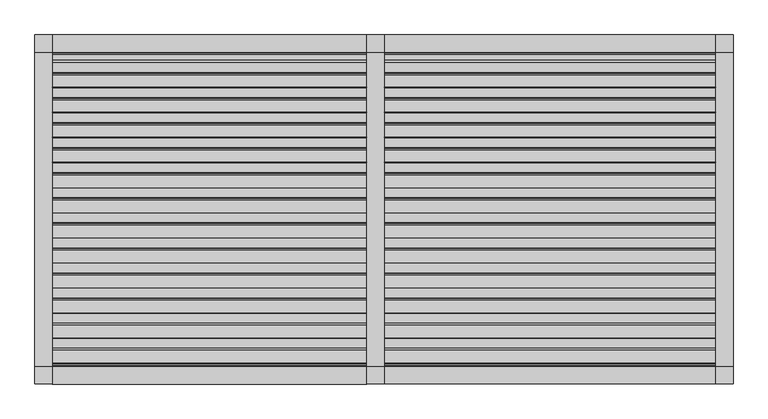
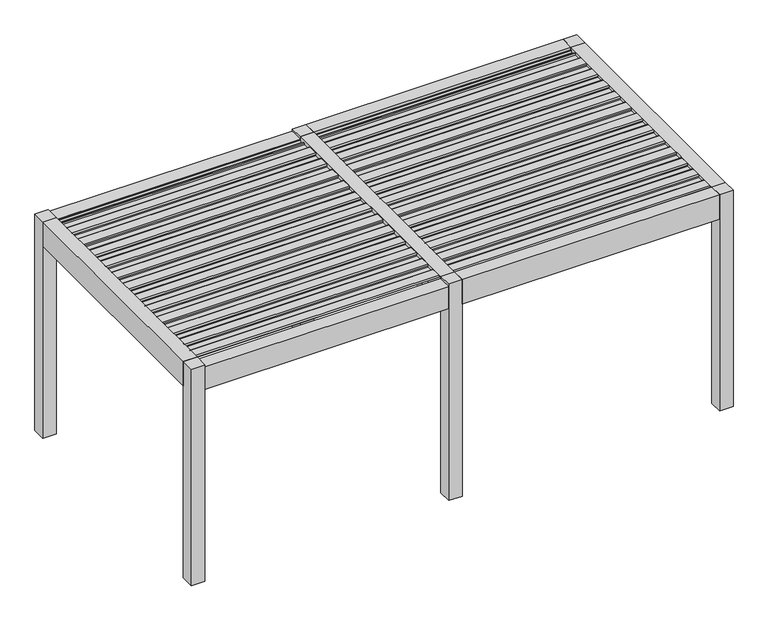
"""IFC4 building model written with IfcOpenShell, lengths in millimetres: proxy geometry, Renson_Amani_Patio_Cover : Renson_Amani_Patio_Cover."""

import ifcopenshell
import ifcopenshell.guid

model = None  # the IFC model being written
_history = None  # IfcOwnerHistory: only IFC2X3 demands one
_inside = {}  # id of a spatial element -> (the spatial element, [elements in it])
_under = {}  # id of a project, library or spatial element -> (it, [spatial elements below it])
_declared = {}  # id of a project -> (the project, [libraries it declares])
_typed = {}  # id of a type object -> (the type object, [elements of that type])
_made_of = {}  # id of a material, layer set ... -> (it, [elements and type objects made of it])


def new_model(schema):
    """Start an empty IFC model of exactly this schema.

    Asked for "IFC4X3", IfcOpenShell would pick the latest addendum, in which some entities
    have other attributes; the version numbers below select the first issue.
    IFC2X3 requires an IfcOwnerHistory on every rooted entity: one is made here for all.
    """
    global model, _history
    if schema == "IFC4X3":
        model = ifcopenshell.file(schema_version=(4, 3, 0, 0))
    else:
        model = ifcopenshell.file(schema=schema)
    _inside.clear()
    _under.clear()
    _declared.clear()
    _typed.clear()
    _made_of.clear()
    _history = None
    if model.schema == "IFC2X3":
        org = make("IfcOrganization", Name="unknown")
        user = make(
            "IfcPersonAndOrganization",
            ThePerson=make("IfcPerson", FamilyName="unknown"),
            TheOrganization=org,
        )
        app = make(
            "IfcApplication",
            ApplicationDeveloper=org,
            Version="unknown",
            ApplicationFullName="unknown",
            ApplicationIdentifier="unknown",
        )
        _history = make(
            "IfcOwnerHistory",
            OwningUser=user,
            OwningApplication=app,
            ChangeAction="ADDED",
            CreationDate=0,
        )
    return model


def make(cls, **values):
    """One entity of the class cls with the attributes given. An attribute that is None is left unset."""
    return model.create_entity(
        cls, **{name: value for name, value in values.items() if value is not None}
    )


def rooted(cls, **values):
    """An entity with a GlobalId (a new one), such as an element, a storey or a relation."""
    return make(cls, GlobalId=ifcopenshell.guid.new(), OwnerHistory=_history, **values)


def si_unit(unit_type, name, prefix=None):
    """IfcSIUnit, for example si_unit("LENGTHUNIT", "METRE", prefix="MILLI")."""
    return make("IfcSIUnit", UnitType=unit_type, Prefix=prefix, Name=name)


def assignment(units):
    """IfcUnitAssignment: the units of a project."""
    return None if units is None else make("IfcUnitAssignment", Units=units)


def point(xyz):
    """IfcCartesianPoint."""
    return None if xyz is None else make("IfcCartesianPoint", Coordinates=xyz)


def direction(xyz):
    """IfcDirection."""
    return None if xyz is None else make("IfcDirection", DirectionRatios=xyz)


def frame(location, z_axis=None, x_axis=None):
    """IfcAxis2Placement3D, a coordinate frame: its origin and axes. An axis left out is left unset."""
    return make(
        "IfcAxis2Placement3D",
        Location=point(location),
        Axis=direction(z_axis),
        RefDirection=direction(x_axis),
    )


def frame_2d(location, x_axis=None):
    """IfcAxis2Placement2D, a coordinate frame in the plane: its origin and x axis."""
    return make(
        "IfcAxis2Placement2D", Location=point(location), RefDirection=direction(x_axis)
    )


def origin():
    """The frame at (0, 0, 0) with its axes left unset."""
    return frame((0.0, 0.0, 0.0))


def origin_with_axes():
    """The frame at (0, 0, 0) with the z axis (0, 0, 1) and the x axis (1, 0, 0) written out."""
    return frame((0.0, 0.0, 0.0), z_axis=(0.0, 0.0, 1.0), x_axis=(1.0, 0.0, 0.0))


def place(relative_to, where):
    """IfcLocalPlacement: puts the frame where relative to a parent placement (None: the world)."""
    return make(
        "IfcLocalPlacement", PlacementRelTo=relative_to, RelativePlacement=where
    )


def context(
    kind, dimensions, precision=None, world=None, true_north=None, identifier=None
):
    """IfcGeometricRepresentationContext, for example the 3D "Model" context."""
    return make(
        "IfcGeometricRepresentationContext",
        ContextIdentifier=identifier,
        ContextType=kind,
        CoordinateSpaceDimension=dimensions,
        Precision=precision,
        WorldCoordinateSystem=world,
        TrueNorth=true_north,
    )


def project(units=None, contexts=None):
    """IfcProject with its units and contexts."""
    return rooted(
        "IfcProject",
        Name="project",
        RepresentationContexts=contexts,
        UnitsInContext=assignment(units),
    )


def spatial(cls, under=None, at=None, **own):
    """A site, building, storey or space (cls), placed at a placement, below another one or the project."""
    s = rooted(cls, ObjectPlacement=at, **own)
    if under is not None:
        _under.setdefault(under.id(), (under, []))[1].append(s)
    return s


def polyline(points):
    """IfcPolyline through the points."""
    return make("IfcPolyline", Points=[point(p) for p in points])


def circle_curve(where, radius):
    """IfcCircle in the frame where."""
    return make("IfcCircle", Position=where, Radius=radius)


def trimmed(basis, trim1, trim2, sense, master):
    """IfcTrimmedCurve: the piece of a basis curve between two trims."""
    return make(
        "IfcTrimmedCurve",
        BasisCurve=basis,
        Trim1=trim1,
        Trim2=trim2,
        SenseAgreement=sense,
        MasterRepresentation=master,
    )


def segment(curve, same_sense, transition):
    """IfcCompositeCurveSegment."""
    return make(
        "IfcCompositeCurveSegment",
        Transition=transition,
        SameSense=same_sense,
        ParentCurve=curve,
    )


def composite_curve(segments, self_intersect=None):
    """IfcCompositeCurve: segments joined end to end."""
    return make("IfcCompositeCurve", Segments=segments, SelfIntersect=self_intersect)


def outline(outer, holes=None, kind="AREA"):
    """IfcArbitraryClosedProfileDef: a profile drawn as a closed curve; with holes, ...WithVoids."""
    if holes is None:
        return make("IfcArbitraryClosedProfileDef", ProfileType=kind, OuterCurve=outer)
    return make(
        "IfcArbitraryProfileDefWithVoids",
        ProfileType=kind,
        OuterCurve=outer,
        InnerCurves=holes,
    )


def extrude(swept, where, along, depth):
    """IfcExtrudedAreaSolid: the profile swept, set in the frame where, extruded along a direction by depth."""
    return make(
        "IfcExtrudedAreaSolid",
        SweptArea=swept,
        Position=where,
        ExtrudedDirection=direction(along),
        Depth=depth,
    )


def shape(context_of_items, identifier, shape_type, items):
    """IfcShapeRepresentation: the items that make up one representation, for example the "Body"."""
    return make(
        "IfcShapeRepresentation",
        ContextOfItems=context_of_items,
        RepresentationIdentifier=identifier,
        RepresentationType=shape_type,
        Items=items,
    )


def source(mapping_origin, context_of_items, identifier, shape_type, items):
    """IfcRepresentationMap: a shape defined once, which mapped items show again and again."""
    return make(
        "IfcRepresentationMap",
        MappingOrigin=mapping_origin,
        MappedRepresentation=shape(context_of_items, identifier, shape_type, items),
    )


def transform(
    local_origin,
    x_axis=None,
    y_axis=None,
    z_axis=None,
    scale=None,
    scale2=None,
    scale3=None,
    uniform=True,
):
    """IfcCartesianTransformationOperator3D, or its non-uniform kind. x_axis, y_axis, z_axis: its Axis1, 2, 3."""
    if uniform:
        return make(
            "IfcCartesianTransformationOperator3D",
            Axis1=direction(x_axis),
            Axis2=direction(y_axis),
            LocalOrigin=point(local_origin),
            Scale=scale,
            Axis3=direction(z_axis),
        )
    return make(
        "IfcCartesianTransformationOperator3DnonUniform",
        Axis1=direction(x_axis),
        Axis2=direction(y_axis),
        LocalOrigin=point(local_origin),
        Scale=scale,
        Axis3=direction(z_axis),
        Scale2=scale2,
        Scale3=scale3,
    )


def mapped(mapping_source, mapping_target):
    """IfcMappedItem: shows the shape of a source again, moved by a transform."""
    return make(
        "IfcMappedItem", MappingSource=mapping_source, MappingTarget=mapping_target
    )


def made_of(thing, what):
    """Note that an element or type object is made of a material, layer set ...; save() writes the relation."""
    if what is not None:
        _made_of.setdefault(what.id(), (what, []))[1].append(thing)
    return thing


def element(
    cls,
    number,
    at=None,
    inside=None,
    cuts=None,
    type_object=None,
    material=None,
    context=None,
    identifier="Body",
    shape_type=None,
    held_by="IfcProductDefinitionShape",
    body=None,
    shapes=None,
    **own,
):
    """One element of the class cls, such as IfcWall. Its Tag is "e" and its number.

    at: its placement. inside: the storey or other place that contains it. cuts: it is an
    opening in that element (IfcRelVoidsElement). A single representation is given by context,
    identifier, shape_type and body (its items); several are given by shapes. held_by: the class
    of the entity that holds the representations. save() writes the other relations.
    """
    e = rooted(cls, Tag="e%d" % number, ObjectPlacement=at, **own)
    if body is not None:
        shapes = [shape(context, identifier, shape_type, body)]
    if shapes is not None:
        e.Representation = make(held_by, Representations=shapes)
    if inside is not None:
        _inside.setdefault(inside.id(), (inside, []))[1].append(e)
    if cuts is not None:
        rooted(
            "IfcRelVoidsElement", RelatingBuildingElement=cuts, RelatedOpeningElement=e
        )
    if type_object is not None:
        _typed.setdefault(type_object.id(), (type_object, []))[1].append(e)
    return made_of(e, material)


def aggregate(whole, parts):
    """IfcRelAggregates: a whole, such as a stair, and the parts it consists of."""
    return rooted("IfcRelAggregates", RelatingObject=whole, RelatedObjects=parts)


def save(model, path):
    """Write the relations noted so far, then the file.

    IfcRelAggregates (storeys below a building ...), IfcRelContainedInSpatialStructure (elements
    in a storey), IfcRelDefinesByType, IfcRelAssociatesMaterial and IfcRelDeclares: one each for
    every whole, place, type object, material and project.
    """
    for whole, parts in _under.values():
        aggregate(whole, parts)
    for where, things in _inside.values():
        rooted(
            "IfcRelContainedInSpatialStructure",
            RelatedElements=things,
            RelatingStructure=where,
        )
    for kind, things in _typed.values():
        rooted("IfcRelDefinesByType", RelatedObjects=things, RelatingType=kind)
    for what, things in _made_of.values():
        rooted("IfcRelAssociatesMaterial", RelatedObjects=things, RelatingMaterial=what)
    for by, libraries in _declared.values():
        rooted("IfcRelDeclares", RelatingContext=by, RelatedDefinitions=libraries)
    model.write(path)


def generic_models_9754287f(model_context):
    return source(origin(), model_context, "Body", "SweptSolid", [
        extrude(outline(composite_curve([segment(polyline([(-1073.7289238, 2483.35), (-1076.1490335, 2511.01198), (-1104.984284, 2512.3970364), (-1101.5469529, 2531.8911096), (-991.549838, 2526.6075693)]), True, "CONTINUOUS"), segment(trimmed(circle_curve(frame_2d((-992.26951, 2511.6248435)), 15.0), [point((-991.549838, 2526.6075693))], [point((-977.4973937, 2514.2295662))], False, "CARTESIAN"), True, "CONTINUOUS"), segment(polyline([(-977.4973937, 2514.2295662), (-974.1067023, 2495.0), (-886.3709263, 2495.0), (-883.3594689, 2512.0788237), (-868.0824984, 2511.3450182), (-865.6332517, 2483.35), (-1073.7289238, 2483.35)]), True, "CONTINUOUS")], self_intersect=False)), frame((1500.0, 0.0, 0.0), z_axis=(1.0, 0.0, 0.0), x_axis=(0.0, 1.0, 0.0)), (0.0, 0.0, 1.0), 2850.0),
        extrude(outline(composite_curve([segment(polyline([(-858.7132078, 2483.35), (-861.1333174, 2511.01198), (-889.9685679, 2512.3970364), (-886.5312368, 2531.8911096), (-776.534122, 2526.6075693)]), True, "CONTINUOUS"), segment(trimmed(circle_curve(frame_2d((-777.2537939, 2511.6248435)), 15.0), [point((-776.534122, 2526.6075693))], [point((-762.4816776, 2514.2295662))], False, "CARTESIAN"), True, "CONTINUOUS"), segment(polyline([(-762.4816776, 2514.2295662), (-759.0909863, 2495.0), (-671.3552102, 2495.0), (-668.3437528, 2512.0788237), (-653.0667824, 2511.3450182), (-650.6175356, 2483.35), (-858.7132078, 2483.35)]), True, "CONTINUOUS")], self_intersect=False)), frame((1500.0, 0.0, 0.0), z_axis=(1.0, 0.0, 0.0), x_axis=(0.0, 1.0, 0.0)), (0.0, 0.0, 1.0), 2850.0),
        extrude(outline(composite_curve([segment(polyline([(-643.6974917, 2483.35), (-646.1176014, 2511.01198), (-674.9528519, 2512.3970364), (-671.5155208, 2531.8911096), (-561.5184059, 2526.6075693)]), True, "CONTINUOUS"), segment(trimmed(circle_curve(frame_2d((-562.2380779, 2511.6248435)), 15.0), [point((-561.5184059, 2526.6075693))], [point((-547.4659616, 2514.2295662))], False, "CARTESIAN"), True, "CONTINUOUS"), segment(polyline([(-547.4659616, 2514.2295662), (-544.0752702, 2495.0), (-456.3394942, 2495.0), (-453.3280368, 2512.0788237), (-438.0510663, 2511.3450182), (-435.6018196, 2483.35), (-643.6974917, 2483.35)]), True, "CONTINUOUS")], self_intersect=False)), frame((1500.0, 0.0, 0.0), z_axis=(1.0, 0.0, 0.0), x_axis=(0.0, 1.0, 0.0)), (0.0, 0.0, 1.0), 2850.0),
        extrude(outline(composite_curve([segment(polyline([(-428.6817757, 2483.35), (-431.1018854, 2511.01198), (-459.9371358, 2512.3970364), (-456.4998047, 2531.8911096), (-346.5026899, 2526.6075693)]), True, "CONTINUOUS"), segment(trimmed(circle_curve(frame_2d((-347.2223618, 2511.6248435)), 15.0), [point((-346.5026899, 2526.6075693))], [point((-332.4502455, 2514.2295662))], False, "CARTESIAN"), True, "CONTINUOUS"), segment(polyline([(-332.4502455, 2514.2295662), (-329.0595542, 2495.0), (-241.3237782, 2495.0), (-238.3123207, 2512.0788237), (-223.0353503, 2511.3450182), (-220.5861035, 2483.35), (-428.6817757, 2483.35)]), True, "CONTINUOUS")], self_intersect=False)), frame((1500.0, 0.0, 0.0), z_axis=(1.0, 0.0, 0.0), x_axis=(0.0, 1.0, 0.0)), (0.0, 0.0, 1.0), 2850.0),
        extrude(outline(composite_curve([segment(polyline([(-213.6660597, 2483.35), (-216.0861693, 2511.01198), (-244.9214198, 2512.3970364), (-241.4840887, 2531.8911096), (-131.4869738, 2526.6075693)]), True, "CONTINUOUS"), segment(trimmed(circle_curve(frame_2d((-132.2066458, 2511.6248435)), 15.0), [point((-131.4869738, 2526.6075693))], [point((-117.4345295, 2514.2295662))], False, "CARTESIAN"), True, "CONTINUOUS"), segment(polyline([(-117.4345295, 2514.2295662), (-114.0438381, 2495.0), (-26.3080621, 2495.0), (-23.2966047, 2512.0788237), (-8.0196342, 2511.3450182), (-5.5703875, 2483.35), (-213.6660597, 2483.35)]), True, "CONTINUOUS")], self_intersect=False)), frame((1500.0, 0.0, 0.0), z_axis=(1.0, 0.0, 0.0), x_axis=(0.0, 1.0, 0.0)), (0.0, 0.0, 1.0), 2850.0),
        extrude(outline(composite_curve([segment(polyline([(1.3496564, 2483.35), (-1.0704533, 2511.01198), (-29.9057037, 2512.3970364), (-26.4683726, 2531.8911096), (83.5287422, 2526.6075693)]), True, "CONTINUOUS"), segment(trimmed(circle_curve(frame_2d((82.8090703, 2511.6248435)), 15.0), [point((83.5287422, 2526.6075693))], [point((97.5811866, 2514.2295662))], False, "CARTESIAN"), True, "CONTINUOUS"), segment(polyline([(97.5811866, 2514.2295662), (100.9718779, 2495.0), (188.7076539, 2495.0), (191.7191114, 2512.0788237), (206.9960818, 2511.3450182), (209.4453286, 2483.35), (1.3496564, 2483.35)]), True, "CONTINUOUS")], self_intersect=False)), frame((1500.0, 0.0, 0.0), z_axis=(1.0, 0.0, 0.0), x_axis=(0.0, 1.0, 0.0)), (0.0, 0.0, 1.0), 2850.0),
        extrude(outline(composite_curve([segment(polyline([(216.3653724, 2483.35), (213.9452628, 2511.01198), (185.1100123, 2512.3970364), (188.5473434, 2531.8911096), (298.5444582, 2526.6075693)]), True, "CONTINUOUS"), segment(trimmed(circle_curve(frame_2d((297.8247863, 2511.6248435)), 15.0), [point((298.5444582, 2526.6075693))], [point((312.5969026, 2514.2295662))], False, "CARTESIAN"), True, "CONTINUOUS"), segment(polyline([(312.5969026, 2514.2295662), (315.987594, 2495.0), (403.72337, 2495.0), (406.7348274, 2512.0788237), (422.0117979, 2511.3450182), (424.4610446, 2483.35), (216.3653724, 2483.35)]), True, "CONTINUOUS")], self_intersect=False)), frame((1500.0, 0.0, 0.0), z_axis=(1.0, 0.0, 0.0), x_axis=(0.0, 1.0, 0.0)), (0.0, 0.0, 1.0), 2850.0),
        extrude(outline(composite_curve([segment(polyline([(431.3810885, 2483.35), (428.9609788, 2511.01198), (400.1257284, 2512.3970364), (403.5630594, 2531.8911096), (513.5601743, 2526.6075693)]), True, "CONTINUOUS"), segment(trimmed(circle_curve(frame_2d((512.8405024, 2511.6248435)), 15.0), [point((513.5601743, 2526.6075693))], [point((527.6126187, 2514.2295662))], False, "CARTESIAN"), True, "CONTINUOUS"), segment(polyline([(527.6126187, 2514.2295662), (531.00331, 2495.0), (618.739086, 2495.0), (621.7505434, 2512.0788237), (637.0275139, 2511.3450182), (639.4767606, 2483.35), (431.3810885, 2483.35)]), True, "CONTINUOUS")], self_intersect=False)), frame((1500.0, 0.0, 0.0), z_axis=(1.0, 0.0, 0.0), x_axis=(0.0, 1.0, 0.0)), (0.0, 0.0, 1.0), 2850.0),
        extrude(outline(composite_curve([segment(polyline([(646.3968045, 2483.35), (643.9766949, 2511.01198), (615.1414444, 2512.3970364), (618.5787755, 2531.8911096), (728.5758903, 2526.6075693)]), True, "CONTINUOUS"), segment(trimmed(circle_curve(frame_2d((727.8562184, 2511.6248435)), 15.0), [point((728.5758903, 2526.6075693))], [point((742.6283347, 2514.2295662))], False, "CARTESIAN"), True, "CONTINUOUS"), segment(polyline([(742.6283347, 2514.2295662), (746.019026, 2495.0), (833.7548021, 2495.0), (836.7662595, 2512.0788237), (852.04323, 2511.3450182), (854.4924767, 2483.35), (646.3968045, 2483.35)]), True, "CONTINUOUS")], self_intersect=False)), frame((1500.0, 0.0, 0.0), z_axis=(1.0, 0.0, 0.0), x_axis=(0.0, 1.0, 0.0)), (0.0, 0.0, 1.0), 2850.0),
        extrude(outline(composite_curve([segment(polyline([(861.4125206, 2483.35), (858.9924109, 2511.01198), (830.1571605, 2512.3970364), (833.5944915, 2531.8911096), (943.5916064, 2526.6075693)]), True, "CONTINUOUS"), segment(trimmed(circle_curve(frame_2d((942.8719345, 2511.6248435)), 15.0), [point((943.5916064, 2526.6075693))], [point((957.6440508, 2514.2295662))], False, "CARTESIAN"), True, "CONTINUOUS"), segment(polyline([(957.6440508, 2514.2295662), (961.0347421, 2495.0), (1048.7705181, 2495.0), (1051.7819755, 2512.0788237), (1067.058946, 2511.3450182), (1069.5081927, 2483.35), (861.4125206, 2483.35)]), True, "CONTINUOUS")], self_intersect=False)), frame((1500.0, 0.0, 0.0), z_axis=(1.0, 0.0, 0.0), x_axis=(0.0, 1.0, 0.0)), (0.0, 0.0, 1.0), 2850.0),
        extrude(outline(composite_curve([segment(polyline([(-1288.7446399, 2483.35), (-1291.1647495, 2511.01198), (-1320.0, 2512.3970364), (-1316.5626689, 2531.8911096), (-1206.5655541, 2526.6075693)]), True, "CONTINUOUS"), segment(trimmed(circle_curve(frame_2d((-1207.285226, 2511.6248435)), 15.0), [point((-1206.5655541, 2526.6075693))], [point((-1192.5131097, 2514.2295662))], False, "CARTESIAN"), True, "CONTINUOUS"), segment(polyline([(-1192.5131097, 2514.2295662), (-1189.1224184, 2495.0), (-1101.3866423, 2495.0), (-1098.3751849, 2512.0788237), (-1083.0982144, 2511.3450182), (-1080.6489677, 2483.35), (-1288.7446399, 2483.35)]), True, "CONTINUOUS")], self_intersect=False)), frame((1500.0, 0.0, 0.0), z_axis=(1.0, 0.0, 0.0), x_axis=(0.0, 1.0, 0.0)), (0.0, 0.0, 1.0), 2850.0),
        extrude(outline(composite_curve([segment(polyline([(1076.4282366, 2483.35), (1074.008127, 2511.01198), (1045.1728765, 2512.3970364), (1048.6102076, 2531.8911096), (1158.6073224, 2526.6075693)]), True, "CONTINUOUS"), segment(trimmed(circle_curve(frame_2d((1157.8876505, 2511.6248435)), 15.0), [point((1158.6073224, 2526.6075693))], [point((1172.6597668, 2514.2295662))], False, "CARTESIAN"), True, "CONTINUOUS"), segment(polyline([(1172.6597668, 2514.2295662), (1176.0504581, 2495.0), (1263.7862342, 2495.0), (1266.7976916, 2512.0788237), (1282.0746621, 2511.3450182), (1284.5239088, 2483.35), (1076.4282366, 2483.35)]), True, "CONTINUOUS")], self_intersect=False)), frame((1500.0, 0.0, 0.0), z_axis=(1.0, 0.0, 0.0), x_axis=(0.0, 1.0, 0.0)), (0.0, 0.0, 1.0), 2850.0),
        extrude(outline(composite_curve([segment(polyline([(-1073.7289238, 2483.35), (-1076.1490335, 2511.01198), (-1104.984284, 2512.3970364), (-1101.5469529, 2531.8911096), (-991.549838, 2526.6075693)]), True, "CONTINUOUS"), segment(trimmed(circle_curve(frame_2d((-992.26951, 2511.6248435)), 15.0), [point((-991.549838, 2526.6075693))], [point((-977.4973937, 2514.2295662))], False, "CARTESIAN"), True, "CONTINUOUS"), segment(polyline([(-977.4973937, 2514.2295662), (-974.1067023, 2495.0), (-886.3709263, 2495.0), (-883.3594689, 2512.0788237), (-868.0824984, 2511.3450182), (-865.6332517, 2483.35), (-1073.7289238, 2483.35)]), True, "CONTINUOUS")], self_intersect=False)), frame((-1350.0, 0.0, 0.0), z_axis=(1.0, 0.0, 0.0), x_axis=(0.0, 1.0, 0.0)), (0.0, 0.0, 1.0), 2700.0),
        extrude(outline(composite_curve([segment(polyline([(-858.7132078, 2483.35), (-861.1333174, 2511.01198), (-889.9685679, 2512.3970364), (-886.5312368, 2531.8911096), (-776.534122, 2526.6075693)]), True, "CONTINUOUS"), segment(trimmed(circle_curve(frame_2d((-777.2537939, 2511.6248435)), 15.0), [point((-776.534122, 2526.6075693))], [point((-762.4816776, 2514.2295662))], False, "CARTESIAN"), True, "CONTINUOUS"), segment(polyline([(-762.4816776, 2514.2295662), (-759.0909863, 2495.0), (-671.3552102, 2495.0), (-668.3437528, 2512.0788237), (-653.0667824, 2511.3450182), (-650.6175356, 2483.35), (-858.7132078, 2483.35)]), True, "CONTINUOUS")], self_intersect=False)), frame((-1350.0, 0.0, 0.0), z_axis=(1.0, 0.0, 0.0), x_axis=(0.0, 1.0, 0.0)), (0.0, 0.0, 1.0), 2700.0),
        extrude(outline(composite_curve([segment(polyline([(-643.6974917, 2483.35), (-646.1176014, 2511.01198), (-674.9528519, 2512.3970364), (-671.5155208, 2531.8911096), (-561.5184059, 2526.6075693)]), True, "CONTINUOUS"), segment(trimmed(circle_curve(frame_2d((-562.2380779, 2511.6248435)), 15.0), [point((-561.5184059, 2526.6075693))], [point((-547.4659616, 2514.2295662))], False, "CARTESIAN"), True, "CONTINUOUS"), segment(polyline([(-547.4659616, 2514.2295662), (-544.0752702, 2495.0), (-456.3394942, 2495.0), (-453.3280368, 2512.0788237), (-438.0510663, 2511.3450182), (-435.6018196, 2483.35), (-643.6974917, 2483.35)]), True, "CONTINUOUS")], self_intersect=False)), frame((-1350.0, 0.0, 0.0), z_axis=(1.0, 0.0, 0.0), x_axis=(0.0, 1.0, 0.0)), (0.0, 0.0, 1.0), 2700.0),
        extrude(outline(composite_curve([segment(polyline([(-428.6817757, 2483.35), (-431.1018854, 2511.01198), (-459.9371358, 2512.3970364), (-456.4998047, 2531.8911096), (-346.5026899, 2526.6075693)]), True, "CONTINUOUS"), segment(trimmed(circle_curve(frame_2d((-347.2223618, 2511.6248435)), 15.0), [point((-346.5026899, 2526.6075693))], [point((-332.4502455, 2514.2295662))], False, "CARTESIAN"), True, "CONTINUOUS"), segment(polyline([(-332.4502455, 2514.2295662), (-329.0595542, 2495.0), (-241.3237782, 2495.0), (-238.3123207, 2512.0788237), (-223.0353503, 2511.3450182), (-220.5861035, 2483.35), (-428.6817757, 2483.35)]), True, "CONTINUOUS")], self_intersect=False)), frame((-1350.0, 0.0, 0.0), z_axis=(1.0, 0.0, 0.0), x_axis=(0.0, 1.0, 0.0)), (0.0, 0.0, 1.0), 2700.0),
        extrude(outline(composite_curve([segment(polyline([(-213.6660597, 2483.35), (-216.0861693, 2511.01198), (-244.9214198, 2512.3970364), (-241.4840887, 2531.8911096), (-131.4869738, 2526.6075693)]), True, "CONTINUOUS"), segment(trimmed(circle_curve(frame_2d((-132.2066458, 2511.6248435)), 15.0), [point((-131.4869738, 2526.6075693))], [point((-117.4345295, 2514.2295662))], False, "CARTESIAN"), True, "CONTINUOUS"), segment(polyline([(-117.4345295, 2514.2295662), (-114.0438381, 2495.0), (-26.3080621, 2495.0), (-23.2966047, 2512.0788237), (-8.0196342, 2511.3450182), (-5.5703875, 2483.35), (-213.6660597, 2483.35)]), True, "CONTINUOUS")], self_intersect=False)), frame((-1350.0, 0.0, 0.0), z_axis=(1.0, 0.0, 0.0), x_axis=(0.0, 1.0, 0.0)), (0.0, 0.0, 1.0), 2700.0),
        extrude(outline(composite_curve([segment(polyline([(1.3496564, 2483.35), (-1.0704533, 2511.01198), (-29.9057037, 2512.3970364), (-26.4683726, 2531.8911096), (83.5287422, 2526.6075693)]), True, "CONTINUOUS"), segment(trimmed(circle_curve(frame_2d((82.8090703, 2511.6248435)), 15.0), [point((83.5287422, 2526.6075693))], [point((97.5811866, 2514.2295662))], False, "CARTESIAN"), True, "CONTINUOUS"), segment(polyline([(97.5811866, 2514.2295662), (100.9718779, 2495.0), (188.7076539, 2495.0), (191.7191114, 2512.0788237), (206.9960818, 2511.3450182), (209.4453286, 2483.35), (1.3496564, 2483.35)]), True, "CONTINUOUS")], self_intersect=False)), frame((-1350.0, 0.0, 0.0), z_axis=(1.0, 0.0, 0.0), x_axis=(0.0, 1.0, 0.0)), (0.0, 0.0, 1.0), 2700.0),
        extrude(outline(composite_curve([segment(polyline([(216.3653724, 2483.35), (213.9452628, 2511.01198), (185.1100123, 2512.3970364), (188.5473434, 2531.8911096), (298.5444582, 2526.6075693)]), True, "CONTINUOUS"), segment(trimmed(circle_curve(frame_2d((297.8247863, 2511.6248435)), 15.0), [point((298.5444582, 2526.6075693))], [point((312.5969026, 2514.2295662))], False, "CARTESIAN"), True, "CONTINUOUS"), segment(polyline([(312.5969026, 2514.2295662), (315.987594, 2495.0), (403.72337, 2495.0), (406.7348274, 2512.0788237), (422.0117979, 2511.3450182), (424.4610446, 2483.35), (216.3653724, 2483.35)]), True, "CONTINUOUS")], self_intersect=False)), frame((-1350.0, 0.0, 0.0), z_axis=(1.0, 0.0, 0.0), x_axis=(0.0, 1.0, 0.0)), (0.0, 0.0, 1.0), 2700.0),
        extrude(outline(composite_curve([segment(polyline([(431.3810885, 2483.35), (428.9609788, 2511.01198), (400.1257284, 2512.3970364), (403.5630594, 2531.8911096), (513.5601743, 2526.6075693)]), True, "CONTINUOUS"), segment(trimmed(circle_curve(frame_2d((512.8405024, 2511.6248435)), 15.0), [point((513.5601743, 2526.6075693))], [point((527.6126187, 2514.2295662))], False, "CARTESIAN"), True, "CONTINUOUS"), segment(polyline([(527.6126187, 2514.2295662), (531.00331, 2495.0), (618.739086, 2495.0), (621.7505434, 2512.0788237), (637.0275139, 2511.3450182), (639.4767606, 2483.35), (431.3810885, 2483.35)]), True, "CONTINUOUS")], self_intersect=False)), frame((-1350.0, 0.0, 0.0), z_axis=(1.0, 0.0, 0.0), x_axis=(0.0, 1.0, 0.0)), (0.0, 0.0, 1.0), 2700.0),
        extrude(outline(composite_curve([segment(polyline([(646.3968045, 2483.35), (643.9766949, 2511.01198), (615.1414444, 2512.3970364), (618.5787755, 2531.8911096), (728.5758903, 2526.6075693)]), True, "CONTINUOUS"), segment(trimmed(circle_curve(frame_2d((727.8562184, 2511.6248435)), 15.0), [point((728.5758903, 2526.6075693))], [point((742.6283347, 2514.2295662))], False, "CARTESIAN"), True, "CONTINUOUS"), segment(polyline([(742.6283347, 2514.2295662), (746.019026, 2495.0), (833.7548021, 2495.0), (836.7662595, 2512.0788237), (852.04323, 2511.3450182), (854.4924767, 2483.35), (646.3968045, 2483.35)]), True, "CONTINUOUS")], self_intersect=False)), frame((-1350.0, 0.0, 0.0), z_axis=(1.0, 0.0, 0.0), x_axis=(0.0, 1.0, 0.0)), (0.0, 0.0, 1.0), 2700.0),
        extrude(outline(composite_curve([segment(polyline([(861.4125206, 2483.35), (858.9924109, 2511.01198), (830.1571605, 2512.3970364), (833.5944915, 2531.8911096), (943.5916064, 2526.6075693)]), True, "CONTINUOUS"), segment(trimmed(circle_curve(frame_2d((942.8719345, 2511.6248435)), 15.0), [point((943.5916064, 2526.6075693))], [point((957.6440508, 2514.2295662))], False, "CARTESIAN"), True, "CONTINUOUS"), segment(polyline([(957.6440508, 2514.2295662), (961.0347421, 2495.0), (1048.7705181, 2495.0), (1051.7819755, 2512.0788237), (1067.058946, 2511.3450182), (1069.5081927, 2483.35), (861.4125206, 2483.35)]), True, "CONTINUOUS")], self_intersect=False)), frame((-1350.0, 0.0, 0.0), z_axis=(1.0, 0.0, 0.0), x_axis=(0.0, 1.0, 0.0)), (0.0, 0.0, 1.0), 2700.0),
        extrude(outline(composite_curve([segment(polyline([(-1288.7446399, 2483.35), (-1291.1647495, 2511.01198), (-1320.0, 2512.3970364), (-1316.5626689, 2531.8911096), (-1206.5655541, 2526.6075693)]), True, "CONTINUOUS"), segment(trimmed(circle_curve(frame_2d((-1207.285226, 2511.6248435)), 15.0), [point((-1206.5655541, 2526.6075693))], [point((-1192.5131097, 2514.2295662))], False, "CARTESIAN"), True, "CONTINUOUS"), segment(polyline([(-1192.5131097, 2514.2295662), (-1189.1224184, 2495.0), (-1101.3866423, 2495.0), (-1098.3751849, 2512.0788237), (-1083.0982144, 2511.3450182), (-1080.6489677, 2483.35), (-1288.7446399, 2483.35)]), True, "CONTINUOUS")], self_intersect=False)), frame((-1350.0, 0.0, 0.0), z_axis=(1.0, 0.0, 0.0), x_axis=(0.0, 1.0, 0.0)), (0.0, 0.0, 1.0), 2700.0),
        extrude(outline(composite_curve([segment(polyline([(1076.4282366, 2483.35), (1074.008127, 2511.01198), (1045.1728765, 2512.3970364), (1048.6102076, 2531.8911096), (1158.6073224, 2526.6075693)]), True, "CONTINUOUS"), segment(trimmed(circle_curve(frame_2d((1157.8876505, 2511.6248435)), 15.0), [point((1158.6073224, 2526.6075693))], [point((1172.6597668, 2514.2295662))], False, "CARTESIAN"), True, "CONTINUOUS"), segment(polyline([(1172.6597668, 2514.2295662), (1176.0504581, 2495.0), (1263.7862342, 2495.0), (1266.7976916, 2512.0788237), (1282.0746621, 2511.3450182), (1284.5239088, 2483.35), (1076.4282366, 2483.35)]), True, "CONTINUOUS")], self_intersect=False)), frame((-1350.0, 0.0, 0.0), z_axis=(1.0, 0.0, 0.0), x_axis=(0.0, 1.0, 0.0)), (0.0, 0.0, 1.0), 2700.0),
        extrude(outline(polyline([(4500.0, 1350.0), (4350.0, 1350.0), (4350.0, 1500.0), (4500.0, 1500.0), (4500.0, 1350.0)])), frame((0.0, 0.0, 2250.0), z_axis=(0.0, 0.0, 1.0), x_axis=(1.0, 0.0, 0.0)), (0.0, 0.0, 1.0), 285.0),
        extrude(outline(polyline([(4500.0, -1350.0), (4500.0, -1500.0), (4350.0, -1500.0), (4350.0, -1350.0), (4500.0, -1350.0)])), origin_with_axes(), (0.0, 0.0, 1.0), 2535.0),
        extrude(outline(polyline([(1500.0, -1350.0), (1500.0, -1500.0), (1350.0, -1500.0), (1350.0, -1350.0), (1500.0, -1350.0)])), origin_with_axes(), (0.0, 0.0, 1.0), 2535.0),
        extrude(outline(polyline([(1500.0, 1500.0), (1500.0, 1350.0), (1350.0, 1350.0), (1350.0, 1500.0), (1500.0, 1500.0)])), origin_with_axes(), (0.0, 0.0, 1.0), 2535.0),
        extrude(outline(polyline([(-1350.0, 1350.0), (-1500.0, 1350.0), (-1500.0, 1500.0), (-1350.0, 1500.0), (-1350.0, 1350.0)])), origin_with_axes(), (0.0, 0.0, 1.0), 2535.0),
        extrude(outline(polyline([(-1350.0, -1350.0), (-1350.0, -1500.0), (-1500.0, -1500.0), (-1500.0, -1350.0), (-1350.0, -1350.0)])), origin_with_axes(), (0.0, 0.0, 1.0), 2535.0),
        extrude(outline(polyline([(1350.0, 2466.6559373), (1290.0, 2466.6559373), (1286.2487113, 2480.6555802), (1329.5940945, 2480.6555802), (1345.0, 2496.400763), (1345.0, 2504.2449277), (1350.0, 2504.6823598), (1350.0, 2466.6559373)])), frame((1500.0, 0.0, 0.0), z_axis=(1.0, 0.0, 0.0), x_axis=(0.0, 1.0, 0.0)), (0.0, 0.0, 1.0), 2850.0),
        extrude(outline(polyline([(4350.0, 1500.0), (4350.0, 1350.0), (1500.0, 1350.0), (1500.0, 1500.0), (4350.0, 1500.0)])), frame((0.0, 0.0, 2250.0), z_axis=(0.0, 0.0, 1.0), x_axis=(1.0, 0.0, 0.0)), (0.0, 0.0, 1.0), 285.0),
        extrude(outline(polyline([(-1350.0, 2250.0), (-1500.0, 2250.0), (-1500.0, 2535.0), (-1350.0, 2535.0), (-1350.0, 2504.6823598), (-1345.0, 2504.2449277), (-1345.0, 2496.400763), (-1329.2544156, 2480.6555802), (-1319.9090324, 2480.6555802), (-1323.6603211, 2466.6559373), (-1350.0, 2466.6559373), (-1350.0, 2250.0)])), frame((1500.0, 0.0, 0.0), z_axis=(1.0, 0.0, 0.0), x_axis=(0.0, 1.0, 0.0)), (0.0, 0.0, 1.0), 2850.0),
        extrude(outline(polyline([(2535.0, 1350.0), (2322.0, 1350.0), (2322.0, 1280.0000001), (2250.0, 1280.0000001), (2250.0, 1569.9999999), (2322.0, 1569.9999999), (2322.0, 1500.0), (2535.0, 1500.0), (2535.0, 1350.0)])), frame((0.0, -1350.0, 0.0), z_axis=(0.0, 1.0, 0.0), x_axis=(0.0, 0.0, 1.0)), (0.0, 0.0, 1.0), 2700.0),
        extrude(outline(polyline([(2535.0, 4350.0), (2322.0, 4350.0), (2322.0, 4280.0000001), (2250.0, 4280.0000001), (2250.0, 4500.0), (2535.0, 4500.0), (2535.0, 4350.0)])), frame((0.0, -1350.0, 0.0), z_axis=(0.0, 1.0, 0.0), x_axis=(0.0, 0.0, 1.0)), (0.0, 0.0, 1.0), 2700.0),
        extrude(outline(polyline([(1350.0, 2466.6559373), (1290.0, 2466.6559373), (1286.2487113, 2480.6555802), (1329.5940945, 2480.6555802), (1345.0, 2496.400763), (1345.0, 2504.2449277), (1350.0, 2504.6823598), (1350.0, 2466.6559373)])), frame((-1350.0, 0.0, 0.0), z_axis=(1.0, 0.0, 0.0), x_axis=(0.0, 1.0, 0.0)), (0.0, 0.0, 1.0), 2700.0),
        extrude(outline(polyline([(-1350.0, 2510.0), (-1350.0, 2479.6823598), (-1345.0, 2479.2449277), (-1345.0, 2471.400763), (-1329.2544156, 2455.6555802), (-1319.9090324, 2455.6555802), (-1323.6603211, 2441.6559373), (-1350.0, 2441.6559373), (-1350.0, 2250.0), (-1500.0, 2250.0), (-1500.0, 2510.0), (-1350.0, 2510.0)])), frame((-1350.0, 0.0, 0.0), z_axis=(1.0, 0.0, 0.0), x_axis=(0.0, 1.0, 0.0)), (0.0, 0.0, 1.0), 2700.0),
        extrude(outline(polyline([(1350.0, 1500.0), (1350.0, 1350.0), (-1350.0, 1350.0), (-1350.0, 1500.0), (1350.0, 1500.0)])), frame((0.0, 0.0, 2250.0), z_axis=(0.0, 0.0, 1.0), x_axis=(1.0, 0.0, 0.0)), (0.0, 0.0, 1.0), 260.0),
        extrude(outline(polyline([(2535.0, -1350.0), (2535.0, -1500.0), (2250.0, -1500.0), (2250.0, -1280.0000001), (2322.0, -1280.0000001), (2322.0, -1350.0), (2535.0, -1350.0)])), frame((0.0, -1350.0, 0.0), z_axis=(0.0, 1.0, 0.0), x_axis=(0.0, 0.0, 1.0)), (0.0, 0.0, 1.0), 2700.0),
        extrude(outline(polyline([(2250.0, 1500.0), (2535.0, 1500.0), (2535.0, 1350.0), (2322.0, 1350.0), (2322.0, 1280.0000001), (2250.0, 1280.0000001), (2250.0, 1500.0)])), frame((0.0, -1350.0, 0.0), z_axis=(0.0, 1.0, 0.0), x_axis=(0.0, 0.0, 1.0)), (0.0, 0.0, 1.0), 2700.0),
    ])


if __name__ == "__main__":
    model = new_model("IFC4")
    model_context = context("Model", 3, world=origin())
    ifc_project = project(units=[si_unit("LENGTHUNIT", "METRE", prefix="MILLI")], contexts=[model_context])
    site = spatial("IfcSite", under=ifc_project)
    building = spatial("IfcBuilding", under=site)
    placement = place(None, origin())
    generic_models_shape = generic_models_9754287f(model_context)
    element("IfcBuildingElementProxy", 1, Name="Renson_Amani_Patio_Cover : Renson_Amani_Patio_Cover", ObjectType="Renson_Amani_Patio_Cover : Renson_Amani_Patio_Cover", at=placement, inside=building, context=model_context, shape_type="MappedRepresentation", body=[
        mapped(generic_models_shape, transform((0.0, 0.0, 0.0), x_axis=(1.0, 0.0, 0.0), y_axis=(0.0, 1.0, 0.0), z_axis=(0.0, 0.0, 1.0))),
    ])
    save(model, "model.ifc")
